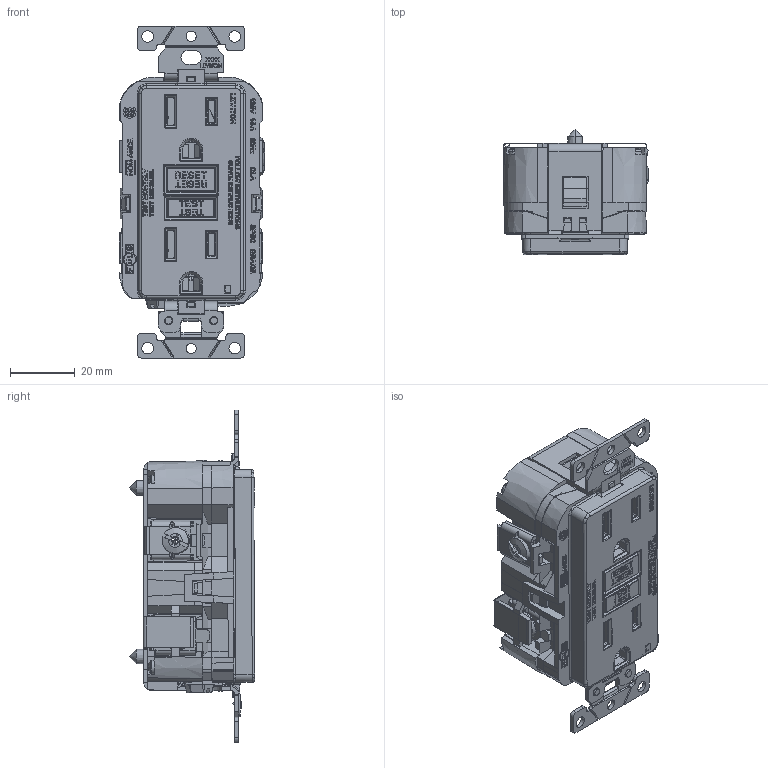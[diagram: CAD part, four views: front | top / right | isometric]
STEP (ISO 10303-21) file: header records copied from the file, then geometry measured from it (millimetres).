
FILE_DESCRIPTION (( 'STEP AP214' ), '1' );
FILE_NAME ('CATSTD-GFNT1-000-D01.STEP', '2020-11-13T02:54:06', ( '' ), ( '' ), 'SwSTEP 2.0', 'SolidWorks 2020', '' );
FILE_SCHEMA (( 'AUTOMOTIVE_DESIGN' ));
Length unit declared in the file: inch
Products named in the file (1): CATSTD-GFNT1-000-D01
Bounding box: 45.02 x 38.91 x 102.95 mm (x, y, z)
Surface area: 31970.8 mm2 (no closed solid volume)
Topology: 0 solids, 80 shells, 4548 faces, 18329 edges, 13373 vertices
Faces by surface type: plane 3034, bspline 1082, cylinder 362, cone 60, torus 10
Entity records: 324124 total; most frequent: CARTESIAN_POINT 128267, ORIENTED_EDGE 28039, DIRECTION 22134, EDGE_CURVE 18323, VERTEX_POINT 13373, LINE 13154, VECTOR 13154, EDGE_LOOP 5139
